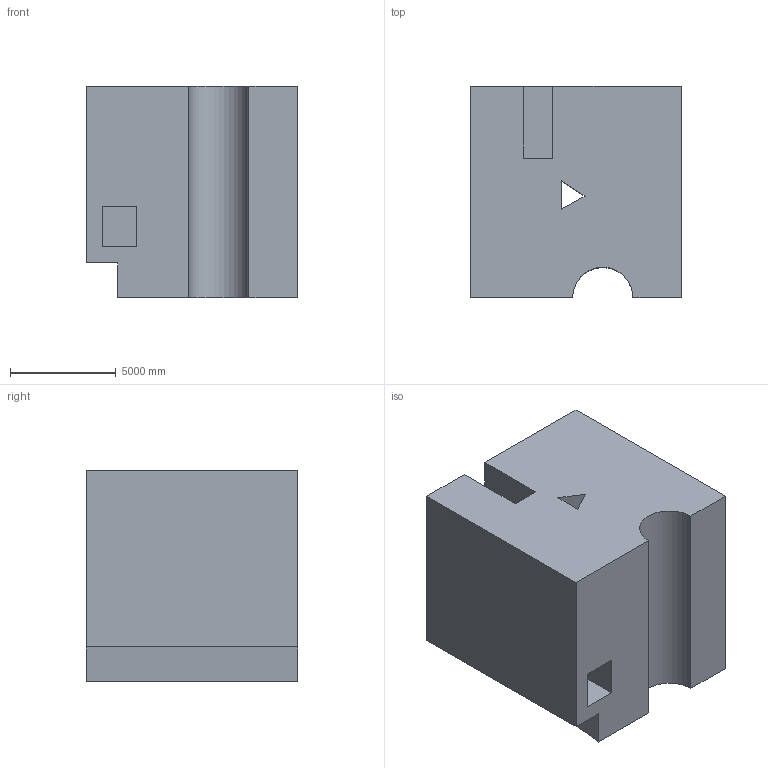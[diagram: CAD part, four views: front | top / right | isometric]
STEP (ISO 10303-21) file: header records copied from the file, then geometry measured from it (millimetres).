
FILE_DESCRIPTION (( 'STEP AP203' ), '1' );
FILE_NAME ('438.STEP', '2022-07-29T11:17:01', ( 'user' ), ( '' ), 'SwSTEP 2.0', 'SolidWorks 2021', '' );
FILE_SCHEMA (( 'CONFIG_CONTROL_DESIGN' ));
Length unit declared in the file: centimetre
Products named in the file (1): 438
Bounding box: 10000 x 10000 x 10000 mm (x, y, z)
Volume: 889412981342.4 mm3; surface area: 713535617.7 mm2
Topology: 1 solids, 1 shells, 22 faces, 57 edges, 38 vertices
Faces by surface type: plane 21, cylinder 1
Entity records: 744 total; most frequent: CARTESIAN_POINT 118, ORIENTED_EDGE 114, DIRECTION 105, EDGE_CURVE 57, VECTOR 55, LINE 55, VERTEX_POINT 38, EDGE_LOOP 25
